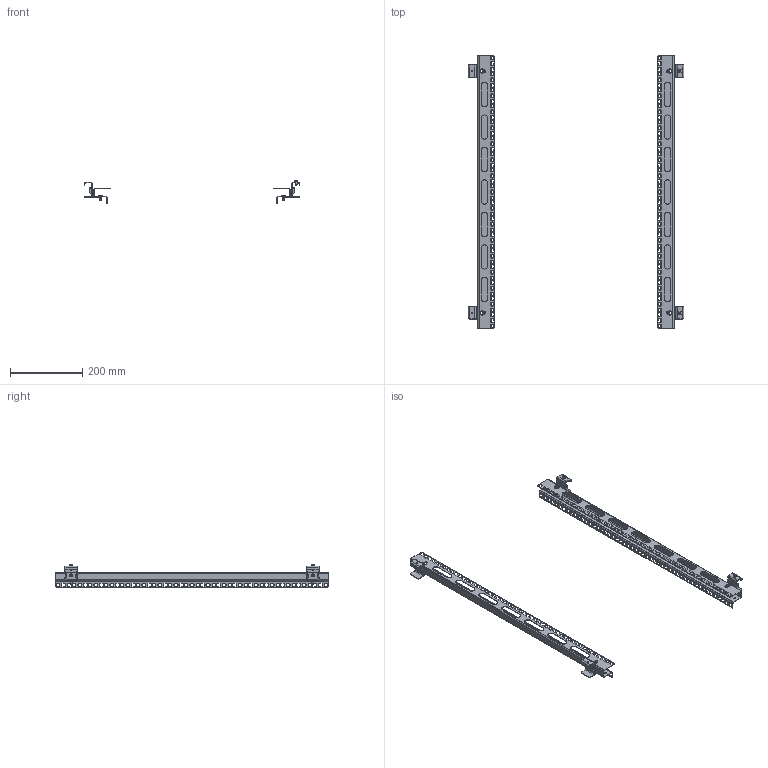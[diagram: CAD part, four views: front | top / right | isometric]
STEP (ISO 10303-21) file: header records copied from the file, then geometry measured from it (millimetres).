
FILE_DESCRIPTION (( 'STEP AP203' ), '1' );
FILE_NAME ('ECMR0800.STEP', '2021-07-15T08:38:44', ( '' ), ( '' ), 'SwSTEP 2.0', 'SolidWorks 2021', '' );
FILE_SCHEMA (( 'CONFIG_CONTROL_DESIGN' ));
Length unit declared in the file: millimetre
Products named in the file (6): 10008060002_01; ECMR0800; 10008060001_01; Vite TRI TPS TORX DIN 7500_Vite trilobata TPS TORX M5x10 DIN7500; 03008080701_06; Vite TRI TCB TORX DIN 7500_Vite trilobata TCB TORX M5x10 DIN 7500
Assembly tree (20 placements, depth 2):
  ECMR0800
    03008080701_06  x2
    10008060001_01  x4
    10008060002_01  x4
    Vite TRI TCB TORX DIN 7500_Vite trilobata TCB TORX M5x10 DIN 7500  x6
    Vite TRI TPS TORX DIN 7500_Vite trilobata TPS TORX M5x10 DIN7500  x4
Bounding box: 597.3 x 758 x 64.71 mm (x, y, z)
Volume: 211749.8 mm3; surface area: 349720.8 mm2
Topology: 20 solids, 20 shells, 2236 faces, 6232 edges, 4046 vertices
Faces by surface type: plane 1354, cylinder 802, torus 52, cone 28
Entity records: 31836 total; most frequent: CARTESIAN_POINT 5409, ORIENTED_EDGE 5318, DIRECTION 5194, EDGE_CURVE 2659, LINE 2010, VECTOR 2010, VERTEX_POINT 1743, AXIS2_PLACEMENT_3D 1592
